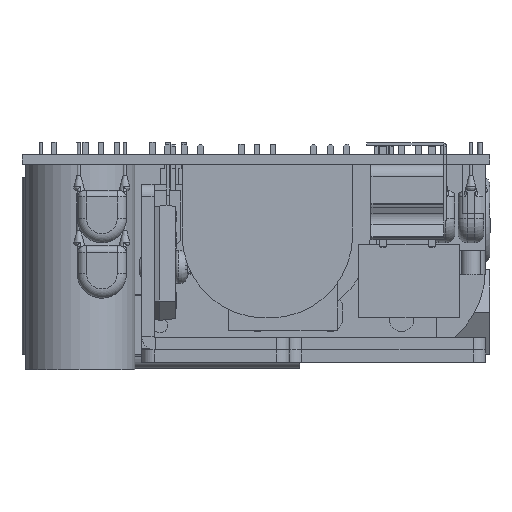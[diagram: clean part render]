
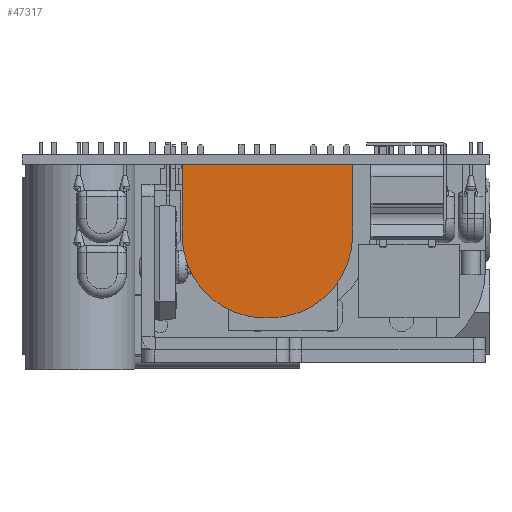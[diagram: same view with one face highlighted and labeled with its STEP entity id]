
A CAD part, left-side view. The second image highlights one B-rep face of the part: STEP entity #47317.
In plain terms, the highlighted planar face has unit normal (-1, 0, 0).
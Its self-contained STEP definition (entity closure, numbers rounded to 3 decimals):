
#3290=CIRCLE($,#50084,13.5);
#3297=CIRCLE($,#50098,13.5);
#4183=FACE_OUTER_BOUND($,#6811,.T.);
#6811=EDGE_LOOP($,(#30526,#30527,#30528,#30529,#30530,#30531));
#9979=LINE($,#63893,#14546);
#9996=LINE($,#63950,#14563);
#9998=LINE($,#63954,#14565);
#9999=LINE($,#63955,#14566);
#14546=VECTOR($,#53249,0.78);
#14563=VECTOR($,#53310,11.5);
#14565=VECTOR($,#53314,11.5);
#14566=VECTOR($,#53315,27.78);
#19095=VERTEX_POINT($,#63873);
#19096=VERTEX_POINT($,#63874);
#19103=VERTEX_POINT($,#63892);
#19114=VERTEX_POINT($,#63923);
#19121=VERTEX_POINT($,#63949);
#19122=VERTEX_POINT($,#63953);
#23613=EDGE_CURVE($,#19095,#19096,#3290,.T.);
#23622=EDGE_CURVE($,#19096,#19103,#9979,.T.);
#23637=EDGE_CURVE($,#19103,#19114,#3297,.T.);
#23648=EDGE_CURVE($,#19121,#19114,#9996,.T.);
#23650=EDGE_CURVE($,#19122,#19095,#9998,.T.);
#23651=EDGE_CURVE($,#19121,#19122,#9999,.T.);
#30526=ORIENTED_EDGE($,*,*,#23613,.F.);
#30527=ORIENTED_EDGE($,*,*,#23650,.F.);
#30528=ORIENTED_EDGE($,*,*,#23651,.F.);
#30529=ORIENTED_EDGE($,*,*,#23648,.T.);
#30530=ORIENTED_EDGE($,*,*,#23637,.F.);
#30531=ORIENTED_EDGE($,*,*,#23622,.F.);
#43945=PLANE($,#50111);
#47317=ADVANCED_FACE($,(#4183),#43945,.T.);
#50084=AXIS2_PLACEMENT_3D($,#63875,#53233,#53234);
#50098=AXIS2_PLACEMENT_3D($,#63924,#53278,#53279);
#50111=AXIS2_PLACEMENT_3D($,#63952,#53312,#53313);
#53233=DIRECTION('center_axis',(1.,0.,0.));
#53234=DIRECTION('ref_axis',(0.,0.707,0.707));
#53249=DIRECTION($,(0.,-1.,0.));
#53278=DIRECTION('center_axis',(1.,0.,0.));
#53279=DIRECTION('ref_axis',(0.,-0.707,0.707));
#53310=DIRECTION($,(0.,0.,1.));
#53312=DIRECTION('center_axis',(-1.,0.,0.));
#53313=DIRECTION('ref_axis',(0.,-1.,0.));
#53314=DIRECTION($,(0.,0.,1.));
#53315=DIRECTION($,(0.,1.,0.));
#63873=CARTESIAN_POINT('',(0.874,53.836,13.1));
#63874=CARTESIAN_POINT('',(0.874,40.336,26.6));
#63875=CARTESIAN_POINT('Origin',(0.874,40.336,13.1));
#63892=CARTESIAN_POINT('',(0.874,39.557,26.6));
#63893=CARTESIAN_POINT($,(0.874,26.057,26.6));
#63923=CARTESIAN_POINT('',(0.874,26.057,13.1));
#63924=CARTESIAN_POINT('Origin',(0.874,39.557,13.1));
#63949=CARTESIAN_POINT('',(0.874,26.057,1.6));
#63950=CARTESIAN_POINT($,(0.874,26.057,1.6));
#63952=CARTESIAN_POINT('Origin',(0.874,53.836,1.6));
#63953=CARTESIAN_POINT('',(0.874,53.836,1.6));
#63954=CARTESIAN_POINT($,(0.874,53.836,1.6));
#63955=CARTESIAN_POINT($,(0.874,45.968,1.6));
